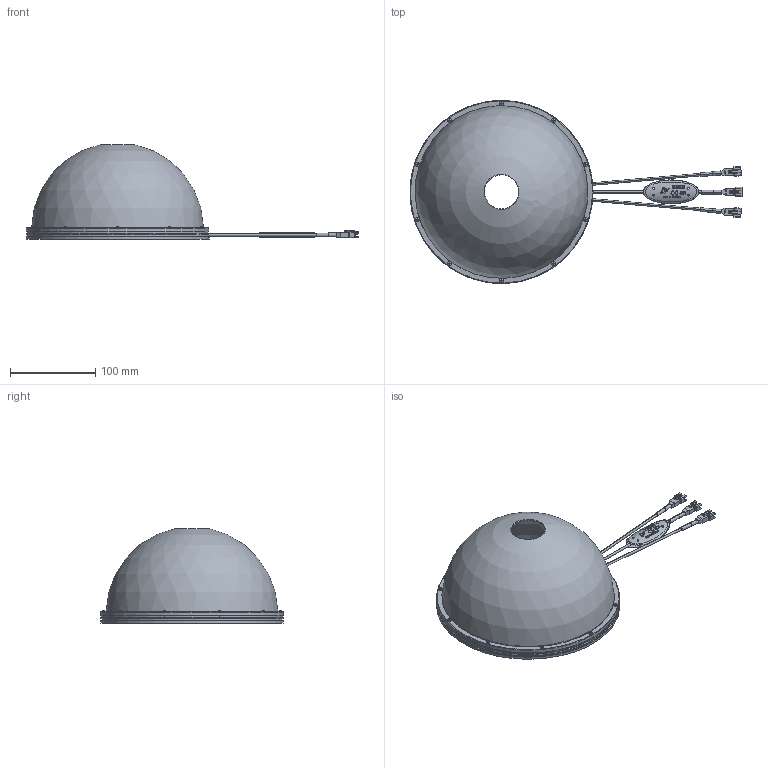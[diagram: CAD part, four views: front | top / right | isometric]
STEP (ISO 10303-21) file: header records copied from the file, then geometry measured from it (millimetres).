
FILE_DESCRIPTION( ('This file contains a STEP AP42 implementation' ,'as created by ZW3D STEP Interface translator.') ,'2;1' );
FILE_NAME( 'VDO-215RGB_DRAWING_3D.stp' ,'25 911.153132', (''), ('ZWCAD Software Co.'), 'Version 1.0', 'ZW3D to STEP translator', '' );
FILE_SCHEMA(('AUTOMOTIVE_DESIGN { 1 0 10303 214 1 1 1 1 }'));
Length unit declared in the file: millimetre
Products named in the file (1): 0
Bounding box: 389.98 x 215 x 110.9 mm (x, y, z)
Volume: 230435.4 mm3; surface area: 195484.6 mm2
Topology: 5 solids, 25 shells, 998 faces, 2831 edges, 1961 vertices
Faces by surface type: plane 584, cylinder 335, cone 30, sphere 22, bspline 14, torus 13
Full cylindrical faces by diameter (mm): 1.6 x36, 2 x8, 2.5 x10, 3.5 x8, 40 x1, 165 x1, 167 x1, 172 x1, 174 x1, 199 x1, 203 x1, 213 x1, 215 x2
Entity records: 35442 total; most frequent: CARTESIAN_POINT 8501, ORIENTED_EDGE 5608, DIRECTION 5062, EDGE_CURVE 2804, VERTEX_POINT 1961, VECTOR 1696, LINE 1696, AXIS2_PLACEMENT_3D 1683
